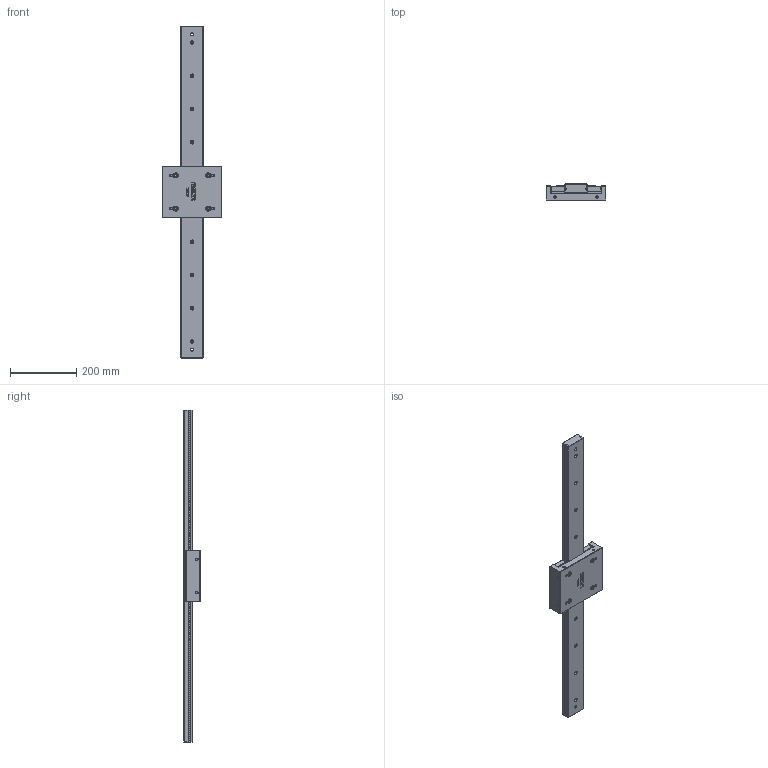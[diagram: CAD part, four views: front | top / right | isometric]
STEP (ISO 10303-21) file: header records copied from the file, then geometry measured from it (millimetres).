
FILE_DESCRIPTION(/* description */ ('TAVOLA TRKD09 L= 1000 mm'),/* implementation_level */ '2;1');
FILE_NAME(/* name */ 'TRKD091000-00.stp',/* time_stamp */ '2024-01-30T12:00:10+01:00',/* author */ ('Rosa Sistemi'),/* organization */ (''),/* preprocessor_version */ 'ST-DEVELOPER v20',/* originating_system */ 'Autodesk Inventor 2024',/* authorisation */ '');
FILE_SCHEMA (('AUTOMOTIVE_DESIGN { 1 0 10303 214 3 1 1 }'));
Length unit declared in the file: millimetre
Products named in the file (2): TRKD091000-00; TRKD0901000-00
Assembly tree (1 placements, depth 2):
  TRKD091000-00
    TRKD0901000-00
Bounding box: 180 x 49 x 1000 mm (x, y, z)
Volume: 2646968.8 mm3; surface area: 347788.4 mm2
Topology: 22 solids, 22 shells, 724 faces, 1836 edges, 1165 vertices
Faces by surface type: plane 432, cone 108, cylinder 99, bspline 31, sphere 30, torus 24
Full cylindrical faces by diameter (mm): 2 x2, 4.134 x4, 4.823 x1, 6 x8, 6.647 x26, 7 x2, 8 x1, 9 x3, 10.5 x14, 13 x4, 13.263 x1, 14 x4
Entity records: 22927 total; most frequent: CARTESIAN_POINT 4985, ORIENTED_EDGE 3528, DIRECTION 3485, EDGE_CURVE 1764, AXIS2_PLACEMENT_3D 1211, VERTEX_POINT 1165, LINE 1063, VECTOR 1063
